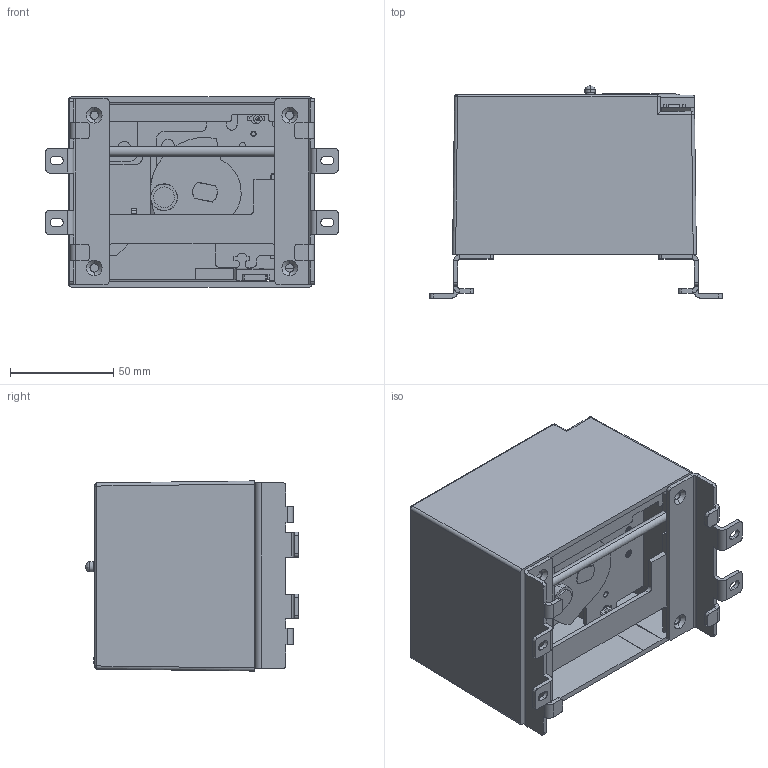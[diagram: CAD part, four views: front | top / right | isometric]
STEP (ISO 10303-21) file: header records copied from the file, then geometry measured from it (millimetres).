
FILE_DESCRIPTION(/* description */ (''),/* implementation_level */ '2;1');
FILE_NAME(/* name */ '文件1.stp',/* time_stamp */ '2026-06-11T10:26:28+08:00',/* author */ (''),/* organization */ (''),/* preprocessor_version */ 'ST-DEVELOPER v16.7',/* originating_system */ 'SIEMENS PLM Software NX 12.0',/* authorisation */ '');
FILE_SCHEMA (('AUTOMOTIVE_DESIGN { 1 0 10303 214 3 1 1 1 }'));
Products named in the file (1): Admi4FB465F8fxfi
Bounding box: 141.5 x 102.86 x 92.1 mm (x, y, z)
Volume: 195021.6 mm3; surface area: 170351.6 mm2
Topology: 20 solids, 20 shells, 2151 faces, 6002 edges, 3955 vertices
Faces by surface type: plane 1333, cylinder 421, bspline 348, torus 24, cone 22, sphere 3
Entity records: 89451 total; most frequent: CARTESIAN_POINT 35949, ORIENTED_EDGE 11994, DIRECTION 9534, EDGE_CURVE 5997, LINE 4228, VECTOR 4228, VERTEX_POINT 3953, AXIS2_PLACEMENT_3D 2653
